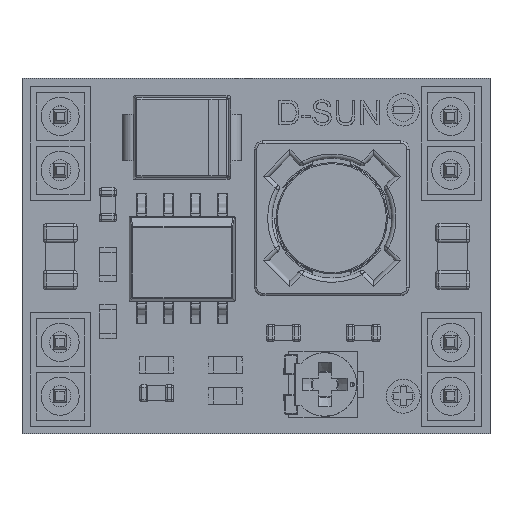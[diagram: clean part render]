
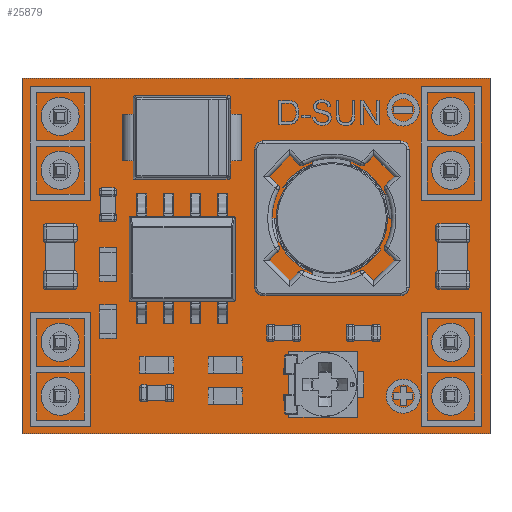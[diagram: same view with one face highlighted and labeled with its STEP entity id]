
A CAD part, top view. The second image highlights one B-rep face of the part: STEP entity #25879.
In plain terms, the highlighted planar face has unit normal (0, 0, 1).
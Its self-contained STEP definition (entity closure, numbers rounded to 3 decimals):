
#1592=FACE_BOUND('',#4200,.T.);
#1593=FACE_BOUND('',#4201,.T.);
#1594=FACE_BOUND('',#4202,.T.);
#1595=FACE_BOUND('',#4203,.T.);
#1596=FACE_BOUND('',#4204,.T.);
#1597=FACE_BOUND('',#4205,.T.);
#1598=FACE_BOUND('',#4206,.T.);
#1599=FACE_BOUND('',#4207,.T.);
#1664=CIRCLE('',#27594,0.9);
#1665=CIRCLE('',#27595,0.9);
#1666=CIRCLE('',#27596,0.9);
#1667=CIRCLE('',#27597,0.9);
#1668=CIRCLE('',#27598,0.9);
#1669=CIRCLE('',#27599,0.9);
#1670=CIRCLE('',#27600,0.9);
#1671=CIRCLE('',#27601,0.9);
#2607=FACE_OUTER_BOUND('',#4199,.T.);
#4199=EDGE_LOOP('',(#16375,#16376,#16377,#16378));
#4200=EDGE_LOOP('',(#16379));
#4201=EDGE_LOOP('',(#16380));
#4202=EDGE_LOOP('',(#16381));
#4203=EDGE_LOOP('',(#16382));
#4204=EDGE_LOOP('',(#16383));
#4205=EDGE_LOOP('',(#16384));
#4206=EDGE_LOOP('',(#16385));
#4207=EDGE_LOOP('',(#16386));
#5862=LINE('',#36852,#8083);
#5867=LINE('',#36861,#8088);
#5868=LINE('',#36864,#8089);
#5869=LINE('',#36865,#8090);
#8083=VECTOR('',#29941,1.);
#8088=VECTOR('',#29948,1.);
#8089=VECTOR('',#29951,1.);
#8090=VECTOR('',#29952,1.);
#10304=VERTEX_POINT('',#36849);
#10305=VERTEX_POINT('',#36851);
#10308=VERTEX_POINT('',#36859);
#10309=VERTEX_POINT('',#36863);
#10310=VERTEX_POINT('',#36866);
#10311=VERTEX_POINT('',#36868);
#10312=VERTEX_POINT('',#36870);
#10313=VERTEX_POINT('',#36872);
#10314=VERTEX_POINT('',#36874);
#10315=VERTEX_POINT('',#36876);
#10316=VERTEX_POINT('',#36878);
#10317=VERTEX_POINT('',#36880);
#12596=EDGE_CURVE('',#10304,#10305,#5862,.T.);
#12601=EDGE_CURVE('',#10304,#10308,#5867,.T.);
#12602=EDGE_CURVE('',#10308,#10309,#5868,.T.);
#12603=EDGE_CURVE('',#10305,#10309,#5869,.T.);
#12604=EDGE_CURVE('',#10310,#10310,#1664,.T.);
#12605=EDGE_CURVE('',#10311,#10311,#1665,.T.);
#12606=EDGE_CURVE('',#10312,#10312,#1666,.T.);
#12607=EDGE_CURVE('',#10313,#10313,#1667,.T.);
#12608=EDGE_CURVE('',#10314,#10314,#1668,.T.);
#12609=EDGE_CURVE('',#10315,#10315,#1669,.T.);
#12610=EDGE_CURVE('',#10316,#10316,#1670,.T.);
#12611=EDGE_CURVE('',#10317,#10317,#1671,.T.);
#16375=ORIENTED_EDGE('',*,*,#12596,.F.);
#16376=ORIENTED_EDGE('',*,*,#12601,.T.);
#16377=ORIENTED_EDGE('',*,*,#12602,.T.);
#16378=ORIENTED_EDGE('',*,*,#12603,.F.);
#16379=ORIENTED_EDGE('',*,*,#12604,.F.);
#16380=ORIENTED_EDGE('',*,*,#12605,.F.);
#16381=ORIENTED_EDGE('',*,*,#12606,.F.);
#16382=ORIENTED_EDGE('',*,*,#12607,.F.);
#16383=ORIENTED_EDGE('',*,*,#12608,.F.);
#16384=ORIENTED_EDGE('',*,*,#12609,.F.);
#16385=ORIENTED_EDGE('',*,*,#12610,.F.);
#16386=ORIENTED_EDGE('',*,*,#12611,.F.);
#23913=PLANE('',#27593);
#25879=ADVANCED_FACE('',(#2607,#1592,#1593,#1594,#1595,#1596,#1597,#1598,
#1599),#23913,.T.);
#27593=AXIS2_PLACEMENT_3D('',#36862,#29949,#29950);
#27594=AXIS2_PLACEMENT_3D('',#36867,#29953,#29954);
#27595=AXIS2_PLACEMENT_3D('',#36869,#29955,#29956);
#27596=AXIS2_PLACEMENT_3D('',#36871,#29957,#29958);
#27597=AXIS2_PLACEMENT_3D('',#36873,#29959,#29960);
#27598=AXIS2_PLACEMENT_3D('',#36875,#29961,#29962);
#27599=AXIS2_PLACEMENT_3D('',#36877,#29963,#29964);
#27600=AXIS2_PLACEMENT_3D('',#36879,#29965,#29966);
#27601=AXIS2_PLACEMENT_3D('',#36881,#29967,#29968);
#29941=DIRECTION('',(0.,1.,0.));
#29948=DIRECTION('',(1.,0.,0.));
#29949=DIRECTION('center_axis',(0.,0.,1.));
#29950=DIRECTION('ref_axis',(1.,0.,0.));
#29951=DIRECTION('',(0.,1.,0.));
#29952=DIRECTION('',(1.,0.,0.));
#29953=DIRECTION('center_axis',(0.,0.,1.));
#29954=DIRECTION('ref_axis',(1.,0.,0.));
#29955=DIRECTION('center_axis',(0.,0.,1.));
#29956=DIRECTION('ref_axis',(1.,0.,0.));
#29957=DIRECTION('center_axis',(0.,0.,1.));
#29958=DIRECTION('ref_axis',(1.,0.,0.));
#29959=DIRECTION('center_axis',(0.,0.,1.));
#29960=DIRECTION('ref_axis',(1.,0.,0.));
#29961=DIRECTION('center_axis',(0.,0.,1.));
#29962=DIRECTION('ref_axis',(1.,0.,0.));
#29963=DIRECTION('center_axis',(0.,0.,1.));
#29964=DIRECTION('ref_axis',(1.,0.,0.));
#29965=DIRECTION('center_axis',(0.,0.,1.));
#29966=DIRECTION('ref_axis',(1.,0.,0.));
#29967=DIRECTION('center_axis',(0.,0.,1.));
#29968=DIRECTION('ref_axis',(1.,0.,0.));
#36849=CARTESIAN_POINT('',(0.,0.,1.));
#36851=CARTESIAN_POINT('',(0.,16.8,1.));
#36852=CARTESIAN_POINT('',(0.,0.,1.));
#36859=CARTESIAN_POINT('',(22.1,0.,1.));
#36861=CARTESIAN_POINT('',(0.,0.,1.));
#36862=CARTESIAN_POINT('Origin',(0.,0.,1.));
#36863=CARTESIAN_POINT('',(22.1,16.8,1.));
#36864=CARTESIAN_POINT('',(22.1,0.,1.));
#36865=CARTESIAN_POINT('',(0.,16.8,1.));
#36866=CARTESIAN_POINT('',(19.35,1.78,1.));
#36867=CARTESIAN_POINT('Origin',(20.25,1.78,1.));
#36868=CARTESIAN_POINT('',(19.35,4.32,1.));
#36869=CARTESIAN_POINT('Origin',(20.25,4.32,1.));
#36870=CARTESIAN_POINT('',(19.35,12.45,1.));
#36871=CARTESIAN_POINT('Origin',(20.25,12.45,1.));
#36872=CARTESIAN_POINT('',(19.35,14.99,1.));
#36873=CARTESIAN_POINT('Origin',(20.25,14.99,1.));
#36874=CARTESIAN_POINT('',(0.9,14.99,1.));
#36875=CARTESIAN_POINT('Origin',(1.8,14.99,1.));
#36876=CARTESIAN_POINT('',(0.9,12.45,1.));
#36877=CARTESIAN_POINT('Origin',(1.8,12.45,1.));
#36878=CARTESIAN_POINT('',(0.9,4.32,1.));
#36879=CARTESIAN_POINT('Origin',(1.8,4.32,1.));
#36880=CARTESIAN_POINT('',(0.9,1.78,1.));
#36881=CARTESIAN_POINT('Origin',(1.8,1.78,1.));
